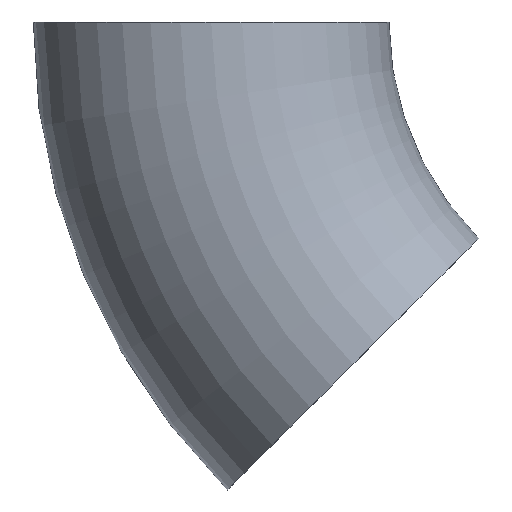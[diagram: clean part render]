
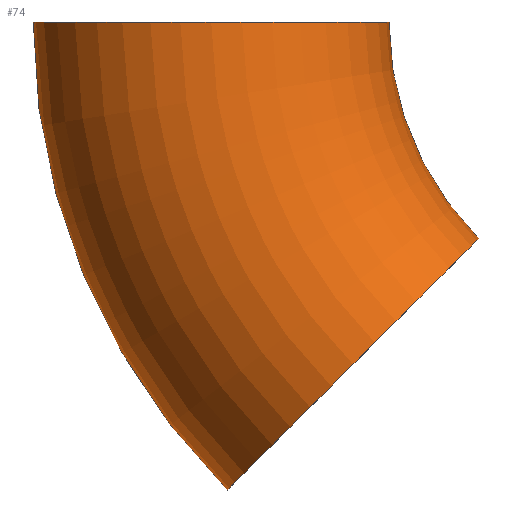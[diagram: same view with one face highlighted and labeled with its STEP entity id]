
A CAD part, front view. The second image highlights one B-rep face of the part: STEP entity #74.
In plain terms, the highlighted toroidal (fillet/blend) face has major radius 229 mm and minor radius 84.15 mm.
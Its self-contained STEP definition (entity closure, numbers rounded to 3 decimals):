
#9 = VERTEX_POINT ( 'NONE', #80 ) ;
#12 = EDGE_CURVE ( 'NONE', #231, #9, #37, .T. ) ;
#20 = EDGE_CURVE ( 'NONE', #9, #98, #131, .T. ) ;
#22 = CIRCLE ( 'NONE', #172, 84.15 ) ;
#34 = CARTESIAN_POINT ( 'NONE',  ( 0., 0., 0. ) ) ;
#37 = CIRCLE ( 'NONE', #141, 84.15 ) ;
#44 = DIRECTION ( 'NONE',  ( 0., 1., 0. ) ) ;
#58 = ORIENTED_EDGE ( 'NONE', *, *, #20, .T. ) ;
#59 = ORIENTED_EDGE ( 'NONE', *, *, #111, .F. ) ;
#60 = CARTESIAN_POINT ( 'NONE',  ( -229., 0., 0. ) ) ;
#64 = EDGE_CURVE ( 'NONE', #193, #98, #22, .T. ) ;
#66 = CARTESIAN_POINT ( 'NONE',  ( -221.43, 0., -221.43 ) ) ;
#73 = TOROIDAL_SURFACE ( 'NONE', #162, 229., 84.15 ) ;
#74 = ADVANCED_FACE ( 'NONE', ( #171 ), #73, .T. ) ;
#79 = CARTESIAN_POINT ( 'NONE',  ( 0., 0., 0. ) ) ;
#80 = CARTESIAN_POINT ( 'NONE',  ( -102.424, 0., -102.424 ) ) ;
#81 = CARTESIAN_POINT ( 'NONE',  ( -161.927, 0., -161.927 ) ) ;
#98 = VERTEX_POINT ( 'NONE', #234 ) ;
#111 = EDGE_CURVE ( 'NONE', #231, #193, #229, .T. ) ;
#131 = CIRCLE ( 'NONE', #226, 144.85 ) ;
#136 = DIRECTION ( 'NONE',  ( 0.707, 0., 0.707 ) ) ;
#141 = AXIS2_PLACEMENT_3D ( 'NONE', #81, #157, #136 ) ;
#148 = AXIS2_PLACEMENT_3D ( 'NONE', #176, #44, #220 ) ;
#154 = DIRECTION ( 'NONE',  ( 0., 1., 0. ) ) ;
#156 = DIRECTION ( 'NONE',  ( 0., 0., 1. ) ) ;
#157 = DIRECTION ( 'NONE',  ( -0.707, 0., 0.707 ) ) ;
#162 = AXIS2_PLACEMENT_3D ( 'NONE', #79, #154, #213 ) ;
#170 = ORIENTED_EDGE ( 'NONE', *, *, #64, .F. ) ;
#171 = FACE_OUTER_BOUND ( 'NONE', #251, .T. ) ;
#172 = AXIS2_PLACEMENT_3D ( 'NONE', #60, #191, #232 ) ;
#174 = CARTESIAN_POINT ( 'NONE',  ( -313.15, 0., 0. ) ) ;
#176 = CARTESIAN_POINT ( 'NONE',  ( 0., 0., 0. ) ) ;
#189 = ORIENTED_EDGE ( 'NONE', *, *, #12, .T. ) ;
#191 = DIRECTION ( 'NONE',  ( 0., 0., 1. ) ) ;
#193 = VERTEX_POINT ( 'NONE', #174 ) ;
#213 = DIRECTION ( 'NONE',  ( 0., 0., 1. ) ) ;
#215 = DIRECTION ( 'NONE',  ( 0., 1., 0. ) ) ;
#220 = DIRECTION ( 'NONE',  ( 0., 0., 1. ) ) ;
#226 = AXIS2_PLACEMENT_3D ( 'NONE', #34, #215, #156 ) ;
#229 = CIRCLE ( 'NONE', #148, 313.15 ) ;
#231 = VERTEX_POINT ( 'NONE', #66 ) ;
#232 = DIRECTION ( 'NONE',  ( 1., 0., 0. ) ) ;
#234 = CARTESIAN_POINT ( 'NONE',  ( -144.85, 0., 0. ) ) ;
#251 = EDGE_LOOP ( 'NONE', ( #59, #189, #58, #170 ) ) ;
